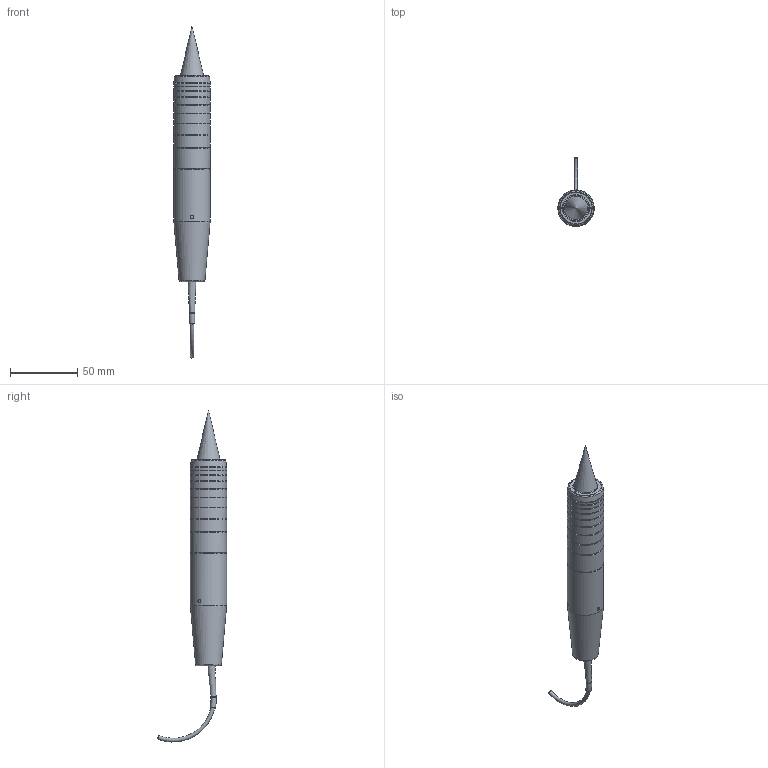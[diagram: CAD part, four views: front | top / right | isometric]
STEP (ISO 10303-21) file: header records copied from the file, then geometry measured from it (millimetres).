
FILE_DESCRIPTION (( 'STEP AP214' ), '1' );
FILE_NAME ('2602047 IFS2406-10 Optischer Wegsensor vereinfacht für Kunden.STEP', '2015-06-09T11:06:43', ( 'MICRO-EPSILON Optronic GmbH' ), ( 'MICRO-EPSILON Optronic GmbH' ), 'SwSTEP 2.0', 'SolidWorks 2015', '' );
FILE_SCHEMA (( 'AUTOMOTIVE_DESIGN' ));
Length unit declared in the file: millimetre
Products named in the file (1): 2602047 IFS2406-10 Optischer Wegsensor vereinfacht für Kunden
Bounding box: 27 x 51.51 x 246.81 mm (x, y, z)
Volume: 77022.3 mm3; surface area: 20665.4 mm2
Topology: 4 solids, 5 shells, 74 faces, 137 edges, 83 vertices
Faces by surface type: cylinder 30, plane 17, torus 16, cone 10, bspline 1
Full cylindrical faces by diameter (mm): 0.05 x1, 1.1 x2, 2.5 x4, 6 x1, 6.4 x1, 10 x1, 14 x1, 18.6 x1, 20 x1, 20.1 x1, 21 x1, 23.5 x1, 24 x1, 27 x10
Entity records: 2842 total; most frequent: CARTESIAN_POINT 826, DIRECTION 268, ORIENTED_EDGE 142, EDGE_LOOP 139, AXIS2_PLACEMENT_3D 134, FACE_OUTER_BOUND 118, UNCERTAINTY_MEASURE_WITH_UNIT 75, FILL_AREA_STYLE 74
